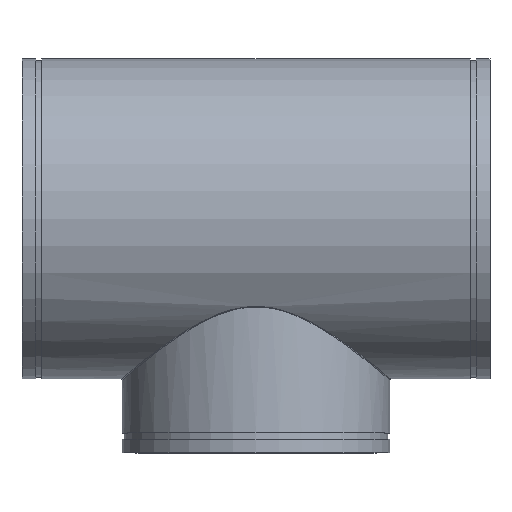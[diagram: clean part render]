
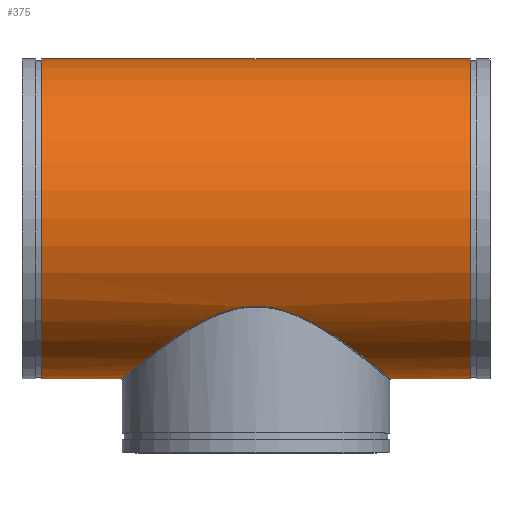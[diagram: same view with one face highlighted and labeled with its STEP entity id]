
A CAD part, top view. The second image highlights one B-rep face of the part: STEP entity #375.
In plain terms, the highlighted cylindrical face has radius 486.41 mm (diameter 972.82 mm), a full revolution.
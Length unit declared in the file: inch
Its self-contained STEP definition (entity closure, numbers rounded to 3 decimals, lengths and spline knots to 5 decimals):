
#54=FACE_BOUND('',#119,.T.);
#65=LINE('',#994,#76);
#76=VECTOR('',#483,19.15);
#87=CYLINDRICAL_SURFACE('',#415,19.15);
#98=FACE_OUTER_BOUND('',#118,.T.);
#118=EDGE_LOOP('',(#266,#267,#268,#269));
#119=EDGE_LOOP('',(#270));
#150=B_SPLINE_CURVE_WITH_KNOTS('',3,(#937,#938,#939,#940,#941,#942,#943,
#944,#945,#946,#947,#948,#949,#950,#951,#952,#953,#954,#955,#956,#957,#958,
#959,#960,#961,#962,#963,#964,#965,#966,#967,#968,#969,#970,#971,#972,#973,
#974,#975,#976,#977,#978,#979,#980,#981,#982,#983,#984,#985,#986,#987,#988,
#989),.UNSPECIFIED.,.T.,.F.,(4,1,1,1,1,1,1,1,1,1,1,1,1,1,1,1,1,1,1,1,1,
1,1,1,1,1,1,1,1,1,1,1,1,1,1,1,1,1,1,1,1,1,1,1,1,1,1,1,1,1,4),(-265.52821,
-261.97203,-260.78663,-256.04506,-251.30348,
-246.56191,-241.82033,-238.26415,-237.07876,
-227.59561,-223.38087,-214.95141,-211.79036,
-205.46826,-203.88773,-202.30721,-195.98511,
-189.66301,-183.34091,-177.01881,-170.69671,
-164.3746,-158.0525,-151.7304,-145.4083,
-139.0862,-134.87147,-130.65674,-128.54937,
-126.442,-120.1199,-113.7978,-107.4757,
-101.1536,-94.8315,-88.5094,-82.1873,
-75.8652,-69.5431,-63.221,-56.8989,
-50.5768,-44.2547,-37.9326,-28.44945,
-23.70788,-18.9663,-14.22473,-9.48315,
-4.74158,0.),.UNSPECIFIED.);
#154=CIRCLE('',#416,19.15);
#155=CIRCLE('',#417,19.15);
#182=VERTEX_POINT('',#876);
#185=VERTEX_POINT('',#991);
#186=VERTEX_POINT('',#993);
#219=EDGE_CURVE('',#182,#182,#150,.T.);
#220=EDGE_CURVE('',#185,#185,#154,.T.);
#221=EDGE_CURVE('',#185,#186,#65,.T.);
#222=EDGE_CURVE('',#186,#186,#155,.T.);
#266=ORIENTED_EDGE('',*,*,#220,.T.);
#267=ORIENTED_EDGE('',*,*,#221,.T.);
#268=ORIENTED_EDGE('',*,*,#222,.T.);
#269=ORIENTED_EDGE('',*,*,#221,.F.);
#270=ORIENTED_EDGE('',*,*,#219,.F.);
#375=ADVANCED_FACE('',(#98,#54),#87,.T.);
#415=AXIS2_PLACEMENT_3D('',#990,#479,#480);
#416=AXIS2_PLACEMENT_3D('',#992,#481,#482);
#417=AXIS2_PLACEMENT_3D('',#995,#484,#485);
#479=DIRECTION('center_axis',(-1.,0.,0.));
#480=DIRECTION('ref_axis',(0.,-1.,0.));
#481=DIRECTION('center_axis',(1.,0.,0.));
#482=DIRECTION('ref_axis',(0.,-1.,0.));
#483=DIRECTION('',(1.,0.,0.));
#484=DIRECTION('center_axis',(-1.,0.,0.));
#485=DIRECTION('ref_axis',(0.,-1.,0.));
#876=CARTESIAN_POINT('',(0.,-10.49135,-16.02043));
#937=CARTESIAN_POINT('Ctrl Pts',(0.,-10.49135,
-16.02043));
#938=CARTESIAN_POINT('Ctrl Pts',(0.48373,-10.49135,-16.02043));
#939=CARTESIAN_POINT('Ctrl Pts',(1.12851,-10.53599,-15.99139));
#940=CARTESIAN_POINT('Ctrl Pts',(2.39651,-10.73462,-15.85909));
#941=CARTESIAN_POINT('Ctrl Pts',(3.78308,-11.10223,-15.60909));
#942=CARTESIAN_POINT('Ctrl Pts',(5.51199,-11.80455,-15.08966));
#943=CARTESIAN_POINT('Ctrl Pts',(7.1212,-12.6326,-14.40765));
#944=CARTESIAN_POINT('Ctrl Pts',(8.49302,-13.45215,-13.64516));
#945=CARTESIAN_POINT('Ctrl Pts',(9.42859,-14.06146,-13.00632));
#946=CARTESIAN_POINT('Ctrl Pts',(10.77775,-14.97526,-11.97662));
#947=CARTESIAN_POINT('Ctrl Pts',(12.06674,-15.92003,-10.72927));
#948=CARTESIAN_POINT('Ctrl Pts',(13.70341,-17.18096,-8.55575));
#949=CARTESIAN_POINT('Ctrl Pts',(14.6659,-17.95277,-6.79342));
#950=CARTESIAN_POINT('Ctrl Pts',(15.48276,-18.61832,-4.60846));
#951=CARTESIAN_POINT('Ctrl Pts',(15.83506,-18.9096,-3.17739));
#952=CARTESIAN_POINT('Ctrl Pts',(16.0135,-19.05739,-1.91597));
#953=CARTESIAN_POINT('Ctrl Pts',(16.14205,-19.16417,-0.64498));
#954=CARTESIAN_POINT('Ctrl Pts',(16.14212,-19.16419,1.28813));
#955=CARTESIAN_POINT('Ctrl Pts',(15.7312,-18.82302,3.80907));
#956=CARTESIAN_POINT('Ctrl Pts',(14.94647,-18.17913,6.17661));
#957=CARTESIAN_POINT('Ctrl Pts',(13.84353,-17.29313,8.32855));
#958=CARTESIAN_POINT('Ctrl Pts',(12.47762,-16.23113,10.23469));
#959=CARTESIAN_POINT('Ctrl Pts',(10.8899,-15.05595,11.88706));
#960=CARTESIAN_POINT('Ctrl Pts',(9.10701,-13.83032,13.28465));
#961=CARTESIAN_POINT('Ctrl Pts',(7.13543,-12.62467,14.42688));
#962=CARTESIAN_POINT('Ctrl Pts',(4.96585,-11.53361,15.30344));
#963=CARTESIAN_POINT('Ctrl Pts',(2.84239,-10.80143,15.81634));
#964=CARTESIAN_POINT('Ctrl Pts',(0.86405,-10.47987,16.02801));
#965=CARTESIAN_POINT('Ctrl Pts',(-0.57594,-10.48007,16.0279));
#966=CARTESIAN_POINT('Ctrl Pts',(-1.71157,-10.61757,15.93736));
#967=CARTESIAN_POINT('Ctrl Pts',(-3.10764,-10.89291,15.75225));
#968=CARTESIAN_POINT('Ctrl Pts',(-4.96552,-11.53346,15.30355));
#969=CARTESIAN_POINT('Ctrl Pts',(-7.13539,-12.62464,14.42691));
#970=CARTESIAN_POINT('Ctrl Pts',(-9.10642,-13.82993,13.28502));
#971=CARTESIAN_POINT('Ctrl Pts',(-10.88928,-15.05549,11.88763));
#972=CARTESIAN_POINT('Ctrl Pts',(-12.47706,-16.23071,10.23536));
#973=CARTESIAN_POINT('Ctrl Pts',(-13.84311,-17.2928,8.32924));
#974=CARTESIAN_POINT('Ctrl Pts',(-14.94609,-18.17882,6.17748));
#975=CARTESIAN_POINT('Ctrl Pts',(-15.73093,-18.82279,3.81017));
#976=CARTESIAN_POINT('Ctrl Pts',(-16.14204,-19.16412,1.28921));
#977=CARTESIAN_POINT('Ctrl Pts',(-16.1421,-19.16422,-1.28823));
#978=CARTESIAN_POINT('Ctrl Pts',(-15.73123,-18.82298,-3.80915));
#979=CARTESIAN_POINT('Ctrl Pts',(-14.94633,-18.17913,-6.17672));
#980=CARTESIAN_POINT('Ctrl Pts',(-13.84366,-17.29303,-8.32863));
#981=CARTESIAN_POINT('Ctrl Pts',(-12.24947,-16.05422,-10.55248));
#982=CARTESIAN_POINT('Ctrl Pts',(-10.47088,-14.74993,-12.27374));
#983=CARTESIAN_POINT('Ctrl Pts',(-8.61839,-13.52666,-13.57562));
#984=CARTESIAN_POINT('Ctrl Pts',(-7.12101,-12.63275,-14.40767));
#985=CARTESIAN_POINT('Ctrl Pts',(-5.51201,-11.80431,-15.08972));
#986=CARTESIAN_POINT('Ctrl Pts',(-3.78316,-11.10262,-15.60895));
#987=CARTESIAN_POINT('Ctrl Pts',(-1.93437,-10.61136,-15.94267));
#988=CARTESIAN_POINT('Ctrl Pts',(-0.64498,-10.49135,-16.02043));
#989=CARTESIAN_POINT('Ctrl Pts',(0.,-10.49135,
-16.02043));
#990=CARTESIAN_POINT('Origin',(28.,0.,0.));
#991=CARTESIAN_POINT('',(-25.625,19.15,0.));
#992=CARTESIAN_POINT('Origin',(-25.625,0.,0.));
#993=CARTESIAN_POINT('',(25.625,19.15,0.));
#994=CARTESIAN_POINT('',(28.,19.15,0.));
#995=CARTESIAN_POINT('Origin',(25.625,0.,0.));
